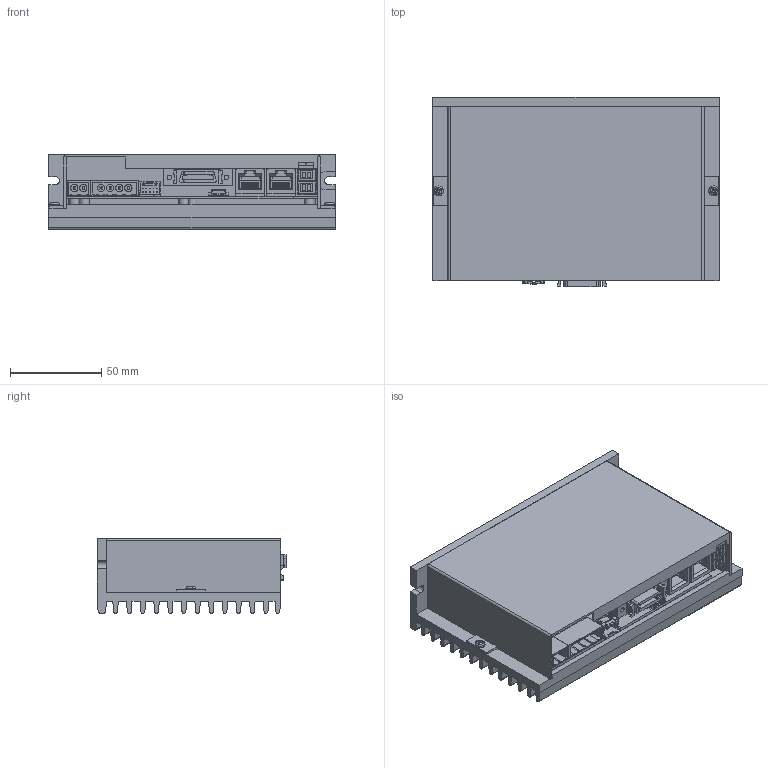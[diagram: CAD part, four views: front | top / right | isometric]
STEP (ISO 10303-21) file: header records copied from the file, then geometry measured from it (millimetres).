
FILE_DESCRIPTION (( 'STEP AP203' ), '1' );
FILE_NAME ('P1J-DR-086-01-R00.STEP', '2018-05-04T08:52:16', ( '' ), ( '' ), 'SwSTEP 2.0', 'SolidWorks 2013', '' );
FILE_SCHEMA (( 'CONFIG_CONTROL_DESIGN' ));
Length unit declared in the file: millimetre
Products named in the file (19): 12; 9; 萄塭檜粽 瞪錳 鐘喀攪 б 86; EtherCAT PCB; M1B-DR-086-01-R00; だ塭嘐攪 撲薑 鐘喀攪; 4; NetBase PCB; P1J-DR-086-01-R00; Part1_4; M1C-DR-086-02-R00; 7; pan cross head_ks_KS 1023 PC- M3 x 5-N; 5; 萄塭檜粽 瞪錳 鐘喀攪 86; _X2_D30CD2B8_X0_96; 賅攪 醞啗 鐘喀攪 86; _X2_D30CD2B8_X0_94; 浚内歹 立加 目池磐
Assembly tree (27 placements, depth 3):
  P1J-DR-086-01-R00
    M1B-DR-086-01-R00
    NetBase PCB
    M1C-DR-086-02-R00
    pan cross head_ks_KS 1023 PC- M3 x 5-N  x2
    萄塭檜粽 瞪錳 鐘喀攪 86
    賅攪 醞啗 鐘喀攪 86
    浚内歹 立加 目池磐
    9
    EtherCAT PCB
    4
    7  x2
      Part1_4
    5  x2
    12  x2
      _X2_D30CD2B8_X0_96
      _X2_D30CD2B8_X0_94
    萄塭檜粽 瞪錳 鐘喀攪 б 86  x6
    だ塭嘐攪 撲薑 鐘喀攪
Bounding box: 157 x 103.86 x 41 mm (x, y, z)
Volume: 201400.7 mm3; surface area: 165337.2 mm2
Topology: 24 solids, 26 shells, 2098 faces, 5654 edges, 3646 vertices
Faces by surface type: plane 1675, cylinder 322, cone 40, bspline 35, torus 22, sphere 4
Entity records: 54792 total; most frequent: CARTESIAN_POINT 11462, ORIENTED_EDGE 8774, DIRECTION 8037, EDGE_CURVE 4405, LINE 3647, VECTOR 3647, VERTEX_POINT 2850, AXIS2_PLACEMENT_3D 2195
